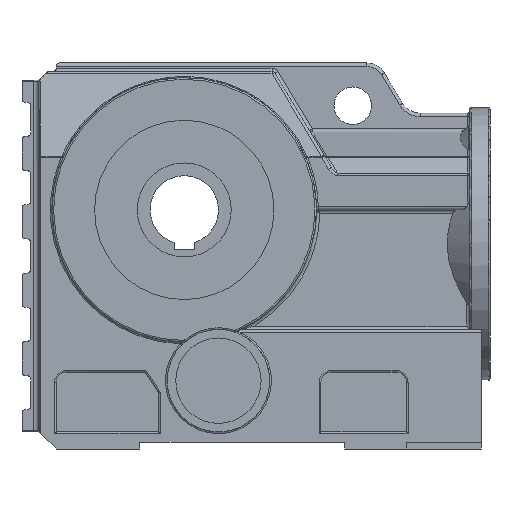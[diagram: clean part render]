
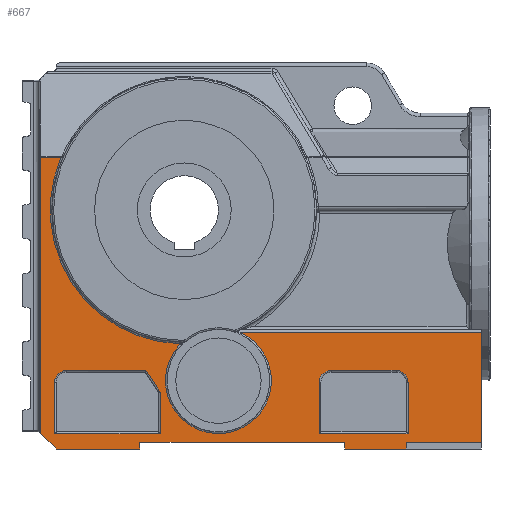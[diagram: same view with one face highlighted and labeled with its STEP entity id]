
A CAD part, front view. The second image highlights one B-rep face of the part: STEP entity #667.
In plain terms, the highlighted planar face has unit normal (0, -1, 0).
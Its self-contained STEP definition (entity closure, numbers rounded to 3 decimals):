
#204=CARTESIAN_POINT('',(-123.5,-65.0,9.));
#205=VERTEX_POINT('',#204);
#213=CARTESIAN_POINT('',(-123.5,-65.0,170.648));
#214=VERTEX_POINT('',#213);
#215=CARTESIAN_POINT('',(-123.5,-65.0,9.));
#216=DIRECTION('',(0.0,0.0,1.0));
#217=VECTOR('',#216,161.648);
#218=LINE('',#215,#217);
#219=EDGE_CURVE('',#205,#214,#218,.T.);
#440=CARTESIAN_POINT('',(-111.77,-65.0,170.648));
#441=VERTEX_POINT('',#440);
#442=CARTESIAN_POINT('',(-123.5,-65.0,170.648));
#443=DIRECTION('',(1.0,0.0,0.0));
#444=VECTOR('',#443,11.73);
#445=LINE('',#442,#444);
#446=EDGE_CURVE('',#214,#441,#445,.T.);
#459=CARTESIAN_POINT('',(134.5,-65.0,0.0));
#460=DIRECTION('',(0.0,-1.0,0.0));
#461=DIRECTION('',(0.0,0.0,-1.0));
#462=AXIS2_PLACEMENT_3D('',#459,#460,#461);
#463=PLANE('',#462);
#464=ORIENTED_EDGE('',*,*,#219,.F.);
#465=CARTESIAN_POINT('',(-114.5,-65.0,0.0));
#466=VERTEX_POINT('',#465);
#467=CARTESIAN_POINT('',(-114.5,-65.0,0.));
#468=DIRECTION('',(-0.707,0.0,0.707));
#469=VECTOR('',#468,12.728);
#470=LINE('',#467,#469);
#471=EDGE_CURVE('',#466,#205,#470,.T.);
#472=ORIENTED_EDGE('',*,*,#471,.F.);
#473=CARTESIAN_POINT('',(-65.5,-65.0,0.0));
#474=VERTEX_POINT('',#473);
#475=CARTESIAN_POINT('',(-114.5,-65.0,0.0));
#476=DIRECTION('',(1.0,0.0,0.0));
#477=VECTOR('',#476,49.);
#478=LINE('',#475,#477);
#479=EDGE_CURVE('',#466,#474,#478,.T.);
#480=ORIENTED_EDGE('',*,*,#479,.T.);
#481=CARTESIAN_POINT('',(-65.5,-65.0,4.0));
#482=VERTEX_POINT('',#481);
#483=CARTESIAN_POINT('',(-65.5,-65.0,0.0));
#484=DIRECTION('',(0.0,0.0,1.0));
#485=VECTOR('',#484,4.0);
#486=LINE('',#483,#485);
#487=EDGE_CURVE('',#474,#482,#486,.T.);
#488=ORIENTED_EDGE('',*,*,#487,.T.);
#489=CARTESIAN_POINT('',(54.5,-65.0,4.0));
#490=VERTEX_POINT('',#489);
#491=CARTESIAN_POINT('',(-65.5,-65.0,4.0));
#492=DIRECTION('',(1.0,0.0,0.0));
#493=VECTOR('',#492,120.0);
#494=LINE('',#491,#493);
#495=EDGE_CURVE('',#482,#490,#494,.T.);
#496=ORIENTED_EDGE('',*,*,#495,.T.);
#497=CARTESIAN_POINT('',(54.5,-65.0,0.0));
#498=VERTEX_POINT('',#497);
#499=CARTESIAN_POINT('',(54.5,-65.0,4.0));
#500=DIRECTION('',(0.0,0.0,-1.0));
#501=VECTOR('',#500,4.0);
#502=LINE('',#499,#501);
#503=EDGE_CURVE('',#490,#498,#502,.T.);
#504=ORIENTED_EDGE('',*,*,#503,.T.);
#505=CARTESIAN_POINT('',(90.5,-65.0,0.0));
#506=VERTEX_POINT('',#505);
#507=CARTESIAN_POINT('',(54.5,-65.0,0.0));
#508=DIRECTION('',(1.0,0.0,0.0));
#509=VECTOR('',#508,36.0);
#510=LINE('',#507,#509);
#511=EDGE_CURVE('',#498,#506,#510,.T.);
#512=ORIENTED_EDGE('',*,*,#511,.T.);
#513=CARTESIAN_POINT('',(90.5,-65.0,4.0));
#514=VERTEX_POINT('',#513);
#515=CARTESIAN_POINT('',(90.5,-65.0,0.0));
#516=DIRECTION('',(0.0,0.0,1.0));
#517=VECTOR('',#516,4.0);
#518=LINE('',#515,#517);
#519=EDGE_CURVE('',#506,#514,#518,.T.);
#520=ORIENTED_EDGE('',*,*,#519,.T.);
#521=CARTESIAN_POINT('',(134.5,-65.0,4.0));
#522=VERTEX_POINT('',#521);
#523=CARTESIAN_POINT('',(90.5,-65.0,4.0));
#524=DIRECTION('',(1.0,0.0,0.0));
#525=VECTOR('',#524,44.);
#526=LINE('',#523,#525);
#527=EDGE_CURVE('',#514,#522,#526,.T.);
#528=ORIENTED_EDGE('',*,*,#527,.T.);
#529=CARTESIAN_POINT('',(134.5,-65.0,68.));
#530=VERTEX_POINT('',#529);
#531=CARTESIAN_POINT('',(134.5,-65.0,4.0));
#532=DIRECTION('',(0.0,0.0,1.0));
#533=VECTOR('',#532,64.);
#534=LINE('',#531,#533);
#535=EDGE_CURVE('',#522,#530,#534,.T.);
#536=ORIENTED_EDGE('',*,*,#535,.T.);
#537=CARTESIAN_POINT('',(-6.196,-65.0,68.));
#538=VERTEX_POINT('',#537);
#539=CARTESIAN_POINT('',(-6.196,-65.0,68.));
#540=DIRECTION('',(1.0,0.0,0.0));
#541=VECTOR('',#540,140.696);
#542=LINE('',#539,#541);
#543=EDGE_CURVE('',#538,#530,#542,.T.);
#544=ORIENTED_EDGE('',*,*,#543,.F.);
#545=CARTESIAN_POINT('',(-41.8,-65.0,61.534));
#546=VERTEX_POINT('',#545);
#547=CARTESIAN_POINT('',(-19.5,-65.0,40.));
#548=DIRECTION('',(0.0,-1.0,0.0));
#549=DIRECTION('',(0.201,0.0,-0.98));
#550=AXIS2_PLACEMENT_3D('',#547,#548,#549);
#551=CIRCLE('',#550,31.);
#552=EDGE_CURVE('',#546,#538,#551,.T.);
#553=ORIENTED_EDGE('',*,*,#552,.F.);
#554=CARTESIAN_POINT('',(-39.5,-65.0,140.0));
#555=DIRECTION('',(0.0,-1.,0.0));
#556=DIRECTION('',(-0.835,0.0,-0.551));
#557=AXIS2_PLACEMENT_3D('',#554,#555,#556);
#558=CIRCLE('',#557,78.5);
#559=EDGE_CURVE('',#441,#546,#558,.T.);
#560=ORIENTED_EDGE('',*,*,#559,.F.);
#561=ORIENTED_EDGE('',*,*,#446,.F.);
#562=EDGE_LOOP('',(#464,#472,#480,#488,#496,#504,#512,#520,#528,#536,#544,#553,#560,#561));
#563=FACE_OUTER_BOUND('',#562,.T.);
#564=CARTESIAN_POINT('',(91.5,-65.0,9.0));
#565=VERTEX_POINT('',#564);
#566=CARTESIAN_POINT('',(91.5,-65.0,39.));
#567=VERTEX_POINT('',#566);
#568=CARTESIAN_POINT('',(91.5,-65.0,9.0));
#569=DIRECTION('',(0.0,0.0,1.0));
#570=VECTOR('',#569,30.);
#571=LINE('',#568,#570);
#572=EDGE_CURVE('',#565,#567,#571,.T.);
#573=ORIENTED_EDGE('',*,*,#572,.F.);
#574=CARTESIAN_POINT('',(39.5,-65.0,9.0));
#575=VERTEX_POINT('',#574);
#576=CARTESIAN_POINT('',(39.5,-65.0,9.0));
#577=DIRECTION('',(1.0,0.0,0.0));
#578=VECTOR('',#577,52.);
#579=LINE('',#576,#578);
#580=EDGE_CURVE('',#575,#565,#579,.T.);
#581=ORIENTED_EDGE('',*,*,#580,.F.);
#582=CARTESIAN_POINT('',(39.5,-65.0,39.));
#583=VERTEX_POINT('',#582);
#584=CARTESIAN_POINT('',(39.5,-65.0,39.));
#585=DIRECTION('',(0.0,0.0,-1.0));
#586=VECTOR('',#585,30.);
#587=LINE('',#584,#586);
#588=EDGE_CURVE('',#583,#575,#587,.T.);
#589=ORIENTED_EDGE('',*,*,#588,.F.);
#590=CARTESIAN_POINT('',(46.5,-65.0,46.0));
#591=VERTEX_POINT('',#590);
#592=CARTESIAN_POINT('',(46.5,-65.0,39.));
#593=DIRECTION('',(0.0,-1.,0.0));
#594=DIRECTION('',(-0.707,0.0,0.707));
#595=AXIS2_PLACEMENT_3D('',#592,#593,#594);
#596=CIRCLE('',#595,7.);
#597=EDGE_CURVE('',#591,#583,#596,.T.);
#598=ORIENTED_EDGE('',*,*,#597,.F.);
#599=CARTESIAN_POINT('',(84.5,-65.0,46.));
#600=VERTEX_POINT('',#599);
#601=CARTESIAN_POINT('',(84.5,-65.0,46.0));
#602=DIRECTION('',(-1.0,0.0,0.0));
#603=VECTOR('',#602,38.0);
#604=LINE('',#601,#603);
#605=EDGE_CURVE('',#600,#591,#604,.T.);
#606=ORIENTED_EDGE('',*,*,#605,.F.);
#607=CARTESIAN_POINT('',(84.5,-65.0,39.));
#608=DIRECTION('',(0.0,-1.,0.0));
#609=DIRECTION('',(0.707,0.0,0.707));
#610=AXIS2_PLACEMENT_3D('',#607,#608,#609);
#611=CIRCLE('',#610,7.);
#612=EDGE_CURVE('',#567,#600,#611,.T.);
#613=ORIENTED_EDGE('',*,*,#612,.F.);
#614=EDGE_LOOP('',(#573,#581,#589,#598,#606,#613));
#615=FACE_BOUND('',#614,.T.);
#616=CARTESIAN_POINT('',(-53.5,-65.0,9.0));
#617=VERTEX_POINT('',#616);
#618=CARTESIAN_POINT('',(-53.5,-65.0,33.303));
#619=VERTEX_POINT('',#618);
#620=CARTESIAN_POINT('',(-53.5,-65.0,9.0));
#621=DIRECTION('',(0.0,0.0,1.0));
#622=VECTOR('',#621,24.303);
#623=LINE('',#620,#622);
#624=EDGE_CURVE('',#617,#619,#623,.T.);
#625=ORIENTED_EDGE('',*,*,#624,.F.);
#626=CARTESIAN_POINT('',(-115.5,-65.0,9.0));
#627=VERTEX_POINT('',#626);
#628=CARTESIAN_POINT('',(-115.5,-65.0,9.0));
#629=DIRECTION('',(1.0,0.0,0.0));
#630=VECTOR('',#629,62.);
#631=LINE('',#628,#630);
#632=EDGE_CURVE('',#627,#617,#631,.T.);
#633=ORIENTED_EDGE('',*,*,#632,.F.);
#634=CARTESIAN_POINT('',(-115.5,-65.0,39.));
#635=VERTEX_POINT('',#634);
#636=CARTESIAN_POINT('',(-115.5,-65.0,39.));
#637=DIRECTION('',(0.0,0.0,-1.0));
#638=VECTOR('',#637,30.);
#639=LINE('',#636,#638);
#640=EDGE_CURVE('',#635,#627,#639,.T.);
#641=ORIENTED_EDGE('',*,*,#640,.F.);
#642=CARTESIAN_POINT('',(-108.5,-65.0,46.0));
#643=VERTEX_POINT('',#642);
#644=CARTESIAN_POINT('',(-108.5,-65.0,39.));
#645=DIRECTION('',(0.0,-1.,0.0));
#646=DIRECTION('',(-0.707,0.0,0.707));
#647=AXIS2_PLACEMENT_3D('',#644,#645,#646);
#648=CIRCLE('',#647,7.);
#649=EDGE_CURVE('',#643,#635,#648,.T.);
#650=ORIENTED_EDGE('',*,*,#649,.F.);
#651=CARTESIAN_POINT('',(-61.965,-65.0,46.0));
#652=VERTEX_POINT('',#651);
#653=CARTESIAN_POINT('',(-61.965,-65.0,46.0));
#654=DIRECTION('',(-1.0,0.0,0.0));
#655=VECTOR('',#654,46.535);
#656=LINE('',#653,#655);
#657=EDGE_CURVE('',#652,#643,#656,.T.);
#658=ORIENTED_EDGE('',*,*,#657,.F.);
#659=CARTESIAN_POINT('',(-53.5,-65.0,33.303));
#660=DIRECTION('',(-0.555,0.0,0.832));
#661=VECTOR('',#660,15.26);
#662=LINE('',#659,#661);
#663=EDGE_CURVE('',#619,#652,#662,.T.);
#664=ORIENTED_EDGE('',*,*,#663,.F.);
#665=EDGE_LOOP('',(#625,#633,#641,#650,#658,#664));
#666=FACE_BOUND('',#665,.T.);
#667=ADVANCED_FACE('',(#563,#615,#666),#463,.T.);
